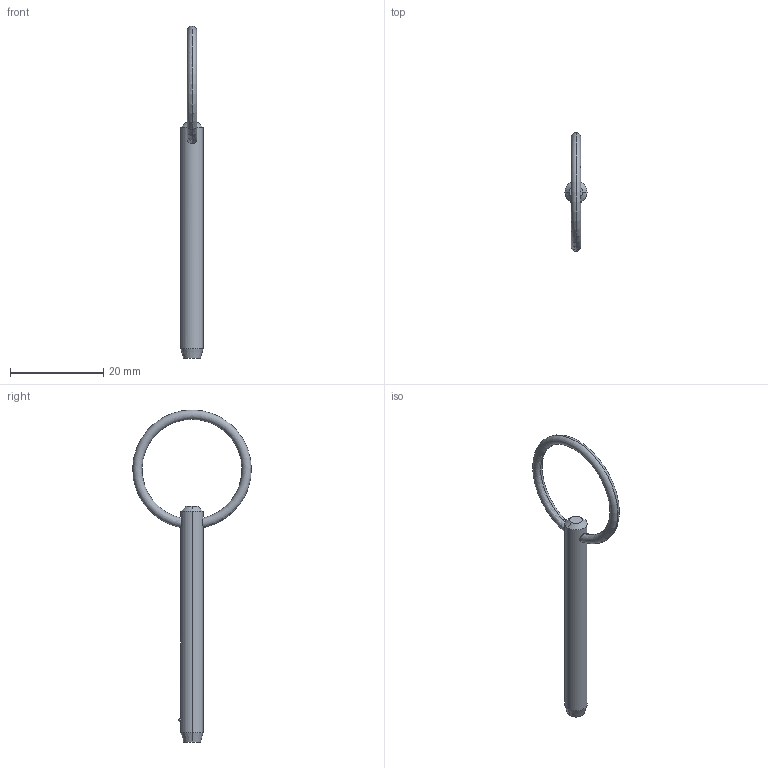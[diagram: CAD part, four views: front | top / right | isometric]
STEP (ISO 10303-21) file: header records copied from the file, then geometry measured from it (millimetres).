
FILE_DESCRIPTION (( 'STEP AP203' ), '1' );
FILE_NAME ('P1250.018-160.step', '2019-07-29T19:32:07', ( '' ), ( '' ), 'SwSTEP 2.0', 'SolidWorks 2017', '' );
FILE_SCHEMA (( 'CONFIG_CONTROL_DESIGN' ));
Length unit declared in the file: millimetre
Products named in the file (1): P1250.018-160
Bounding box: 4.76 x 25.4 x 71.08 mm (x, y, z)
Volume: 1099.8 mm3; surface area: 1197.2 mm2
Topology: 1 solids, 1 shells, 12 faces, 28 edges, 17 vertices
Faces by surface type: cone 4, torus 2, sphere 2, cylinder 2, plane 2
Entity records: 471 total; most frequent: CARTESIAN_POINT 138, DIRECTION 56, ORIENTED_EDGE 48, AXIS2_PLACEMENT_3D 25, EDGE_CURVE 24, EDGE_LOOP 15, VERTEX_POINT 15, CIRCLE 12
